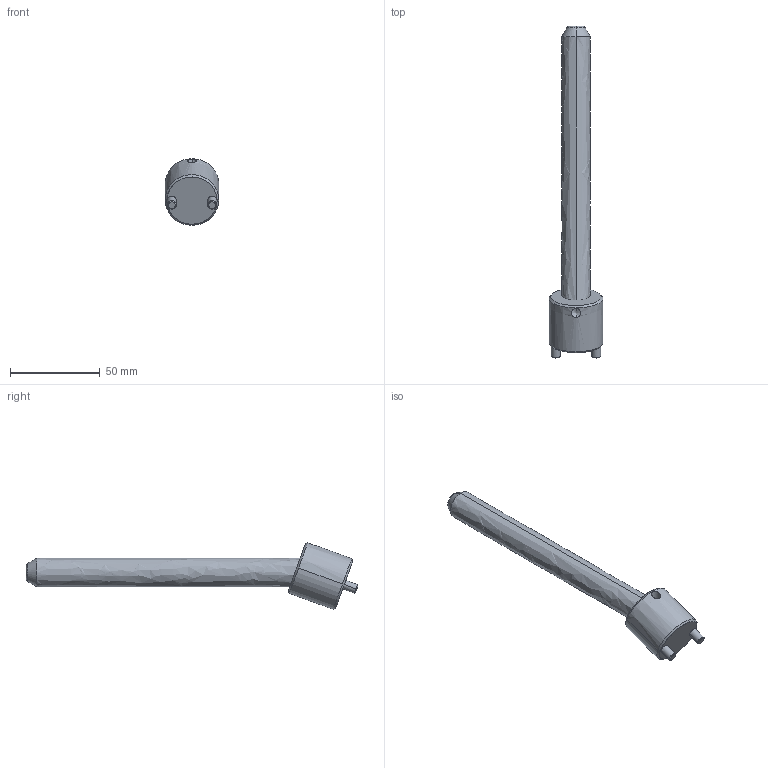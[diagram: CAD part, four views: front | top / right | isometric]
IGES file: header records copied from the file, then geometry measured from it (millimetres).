
Start section: START RECORD GO HERE.
Global section: file name: CI2016150.igs; native system: DASSAULT SYSTEMES CATIA V5 R20 - www.3ds.com; preprocessor: CATIA Version 5 Release 20 ; author: r.borello; organization: CFTORINO; date: 20190624.084121; units: millimetre
Bounding box: 30 x 185.07 x 37.08 mm (x, y, z)
Surface area: 14462.3 mm2 (no closed solid volume)
Topology: 0 solids, 0 shells, 39 faces, 162 edges, 160 vertices
Faces by surface type: revolution 32, plane 7
